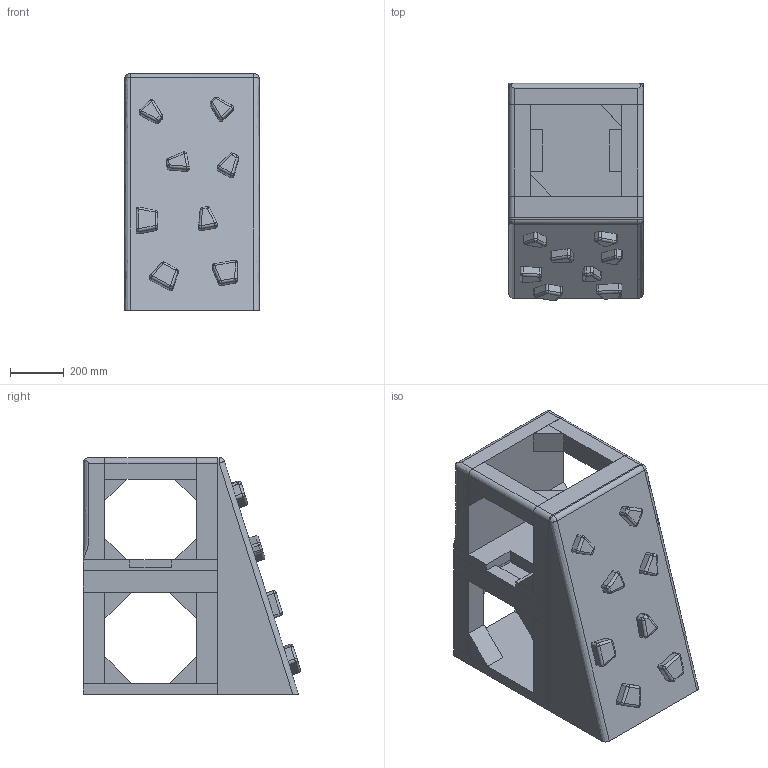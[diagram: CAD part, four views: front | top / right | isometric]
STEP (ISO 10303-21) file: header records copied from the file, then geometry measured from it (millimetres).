
FILE_DESCRIPTION(/* description */ (''),/* implementation_level */ '2;1');
FILE_NAME(/* name */ 'kinoshita_baobabland_k149',/* time_stamp */ '2026-04-13T20:27:32+09:00',/* author */ (''),/* organization */ (''),/* preprocessor_version */ 'ST-DEVELOPER v16.5',/* originating_system */ '',/* authorisation */ '');
FILE_SCHEMA (('AUTOMOTIVE_DESIGN'));
Length unit declared in the file: millimetre
Products named in the file (1): Document
Bounding box: 500 x 807.9 x 880.01 mm (x, y, z)
Volume: 157353786.9 mm3; surface area: 5423342.1 mm2
Topology: 32 solids, 32 shells, 307 faces, 664 edges, 384 vertices
Faces by surface type: plane 195, bspline 112
Entity records: 7983 total; most frequent: CARTESIAN_POINT 3603, ORIENTED_EDGE 1256, EDGE_CURVE 628, B_SPLINE_CURVE_WITH_KNOTS 482, VERTEX_POINT 384, EDGE_LOOP 310, ADVANCED_FACE 307, FACE_OUTER_BOUND 307
